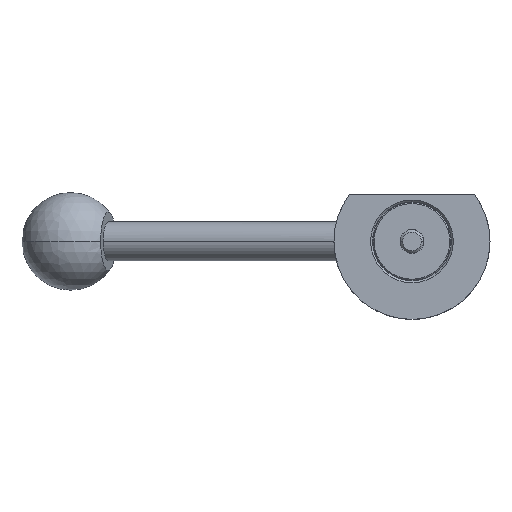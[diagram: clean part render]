
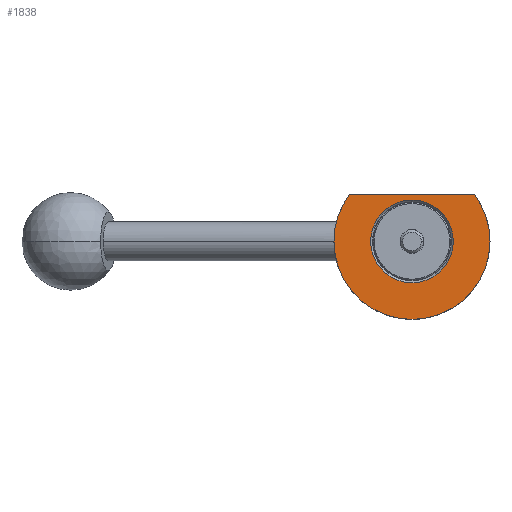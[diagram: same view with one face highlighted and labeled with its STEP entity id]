
A CAD part, front view. The second image highlights one B-rep face of the part: STEP entity #1838.
In plain terms, the highlighted planar face has unit normal (0, -1, 0).
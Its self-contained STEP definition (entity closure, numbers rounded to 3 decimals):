
#6 = CARTESIAN_POINT ( 'NONE',  ( 10.6, -10., 0. ) ) ;
#28 = DIRECTION ( 'NONE',  ( 0., 1., 0. ) ) ;
#104 = CARTESIAN_POINT ( 'NONE',  ( 20., -10., 0. ) ) ;
#115 = ORIENTED_EDGE ( 'NONE', *, *, #2021, .F. ) ;
#123 = CARTESIAN_POINT ( 'NONE',  ( -10.6, -10., 0. ) ) ;
#160 = DIRECTION ( 'NONE',  ( -1., 0., 0. ) ) ;
#177 = CARTESIAN_POINT ( 'NONE',  ( 0., -10., 0. ) ) ;
#188 = DIRECTION ( 'NONE',  ( -1., 0., 0. ) ) ;
#237 = EDGE_CURVE ( 'NONE', #1013, #1583, #749, .T. ) ;
#257 = CARTESIAN_POINT ( 'NONE',  ( -20., -10., 0. ) ) ;
#259 = EDGE_LOOP ( 'NONE', ( #811, #1331 ) ) ;
#288 = DIRECTION ( 'NONE',  ( -1., 0., 0. ) ) ;
#352 = ORIENTED_EDGE ( 'NONE', *, *, #1627, .F. ) ;
#445 = DIRECTION ( 'NONE',  ( 1., 0., 0. ) ) ;
#457 = CARTESIAN_POINT ( 'NONE',  ( -10.6, -10., 0. ) ) ;
#482 = CIRCLE ( 'NONE', #1342, 10.6 ) ;
#556 = AXIS2_PLACEMENT_3D ( 'NONE', #457, #1093, #445 ) ;
#572 = ORIENTED_EDGE ( 'NONE', *, *, #237, .T. ) ;
#613 = FACE_BOUND ( 'NONE', #259, .T. ) ;
#624 = CARTESIAN_POINT ( 'NONE',  ( 0., -10., 0. ) ) ;
#706 = CARTESIAN_POINT ( 'NONE',  ( 0., -10., 0. ) ) ;
#714 = ORIENTED_EDGE ( 'NONE', *, *, #1909, .F. ) ;
#723 = EDGE_CURVE ( 'NONE', #1995, #1901, #1767, .T. ) ;
#749 = LINE ( 'NONE', #954, #1176 ) ;
#811 = ORIENTED_EDGE ( 'NONE', *, *, #870, .T. ) ;
#854 = EDGE_LOOP ( 'NONE', ( #352, #572, #115, #714 ) ) ;
#870 = EDGE_CURVE ( 'NONE', #1901, #1995, #482, .T. ) ;
#898 = AXIS2_PLACEMENT_3D ( 'NONE', #1231, #1555, #1264 ) ;
#912 = PLANE ( 'NONE',  #556 ) ;
#923 = CARTESIAN_POINT ( 'NONE',  ( 0., -10., 0. ) ) ;
#945 = DIRECTION ( 'NONE',  ( 0., 1., 0. ) ) ;
#954 = CARTESIAN_POINT ( 'NONE',  ( -10.6, -10., 11.999 ) ) ;
#963 = CIRCLE ( 'NONE', #992, 20. ) ;
#992 = AXIS2_PLACEMENT_3D ( 'NONE', #923, #1558, #288 ) ;
#1013 = VERTEX_POINT ( 'NONE', #2002 ) ;
#1093 = DIRECTION ( 'NONE',  ( 0., -1., 0. ) ) ;
#1176 = VECTOR ( 'NONE', #160, 1000. ) ;
#1178 = DIRECTION ( 'NONE',  ( 0., 1., 0. ) ) ;
#1187 = VERTEX_POINT ( 'NONE', #104 ) ;
#1231 = CARTESIAN_POINT ( 'NONE',  ( 0., -10., 0. ) ) ;
#1251 = AXIS2_PLACEMENT_3D ( 'NONE', #624, #945, #1255 ) ;
#1255 = DIRECTION ( 'NONE',  ( -1., 0., 0. ) ) ;
#1264 = DIRECTION ( 'NONE',  ( -1., 0., 0. ) ) ;
#1331 = ORIENTED_EDGE ( 'NONE', *, *, #723, .T. ) ;
#1342 = AXIS2_PLACEMENT_3D ( 'NONE', #706, #1178, #1687 ) ;
#1377 = AXIS2_PLACEMENT_3D ( 'NONE', #177, #28, #188 ) ;
#1518 = CIRCLE ( 'NONE', #1251, 20. ) ;
#1533 = FACE_OUTER_BOUND ( 'NONE', #854, .T. ) ;
#1555 = DIRECTION ( 'NONE',  ( 0., 1., 0. ) ) ;
#1558 = DIRECTION ( 'NONE',  ( 0., 1., 0. ) ) ;
#1583 = VERTEX_POINT ( 'NONE', #1800 ) ;
#1627 = EDGE_CURVE ( 'NONE', #1013, #1187, #963, .T. ) ;
#1634 = VERTEX_POINT ( 'NONE', #257 ) ;
#1687 = DIRECTION ( 'NONE',  ( -1., 0., 0. ) ) ;
#1719 = CIRCLE ( 'NONE', #898, 20. ) ;
#1767 = CIRCLE ( 'NONE', #1377, 10.6 ) ;
#1800 = CARTESIAN_POINT ( 'NONE',  ( -16.001, -10., 11.999 ) ) ;
#1838 = ADVANCED_FACE ( 'NONE', ( #613, #1533 ), #912, .T. ) ;
#1901 = VERTEX_POINT ( 'NONE', #6 ) ;
#1909 = EDGE_CURVE ( 'NONE', #1187, #1634, #1518, .T. ) ;
#1995 = VERTEX_POINT ( 'NONE', #123 ) ;
#2002 = CARTESIAN_POINT ( 'NONE',  ( 16.001, -10., 11.999 ) ) ;
#2021 = EDGE_CURVE ( 'NONE', #1634, #1583, #1719, .T. ) ;
